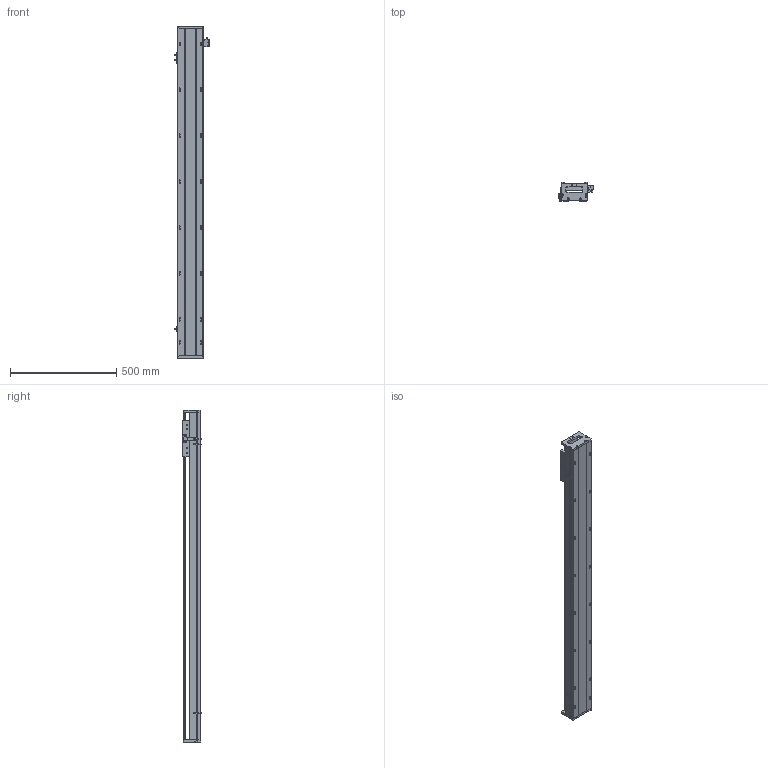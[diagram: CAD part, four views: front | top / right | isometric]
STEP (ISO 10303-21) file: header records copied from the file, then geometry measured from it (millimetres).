
FILE_DESCRIPTION (( 'STEP AP203' ), '1' );
FILE_NAME ('SKR12S-C1-S1290（简）.STEP', '2022-09-26T02:49:35', ( '' ), ( '' ), 'SwSTEP 2.0', 'SolidWorks 2018', '' );
FILE_SCHEMA (( 'CONFIG_CONTROL_DESIGN' ));
Length unit declared in the file: millimetre
Products named in the file (8): SKR12S-C1-S1290（简）; SKR12耜啣; SKR12菁釱-C1-S1290(潠); 棠掑假蚾輸; SKR12滑台-170L（简）; 覜茼え; EE-SX672; SIKO棠掑
Assembly tree (10 placements, depth 2):
  SKR12S-C1-S1290（简）
    SKR12菁釱-C1-S1290(潠)
    SKR12滑台-170L（简）
    SKR12耜啣  x2
    棠掑假蚾輸
    SIKO棠掑
    覜茼え
    EE-SX672  x3
Bounding box: 162.7 x 87.3 x 1560 mm (x, y, z)
Volume: 6841378.7 mm3; surface area: 1094088.8 mm2
Topology: 11 solids, 11 shells, 1038 faces, 2769 edges, 1749 vertices
Faces by surface type: cylinder 487, plane 409, cone 142
Entity records: 28689 total; most frequent: CARTESIAN_POINT 5943, DIRECTION 4699, ORIENTED_EDGE 4486, EDGE_CURVE 2243, AXIS2_PLACEMENT_3D 1745, VERTEX_POINT 1453, VECTOR 1209, LINE 1209
